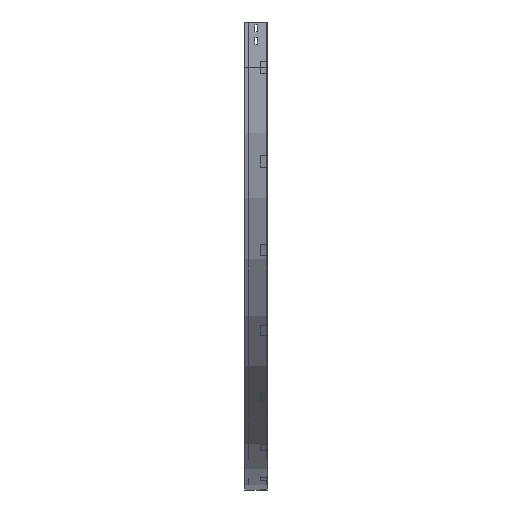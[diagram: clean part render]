
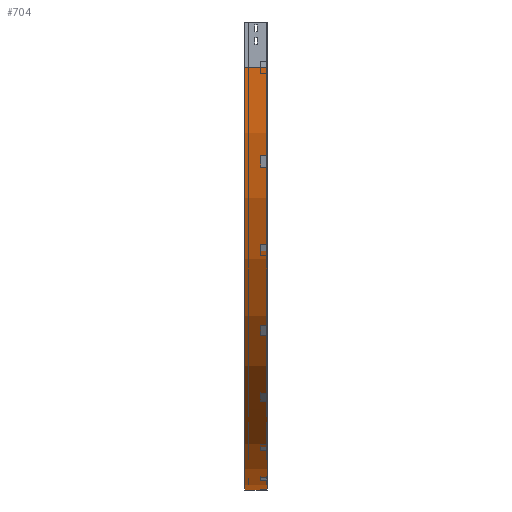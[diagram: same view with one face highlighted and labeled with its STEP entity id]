
A CAD part, left-side view. The second image highlights one B-rep face of the part: STEP entity #704.
In plain terms, the highlighted cylindrical face has radius 1400 mm (diameter 2800 mm), a partial arc.
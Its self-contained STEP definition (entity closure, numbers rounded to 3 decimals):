
#1 = CARTESIAN_POINT ( 'NONE',  ( 0., 0., -150. ) ) ;
#49 = DIRECTION ( 'NONE',  ( -1., 0., 0. ) ) ;
#73 = CARTESIAN_POINT ( 'NONE',  ( 1400., 0., -1550. ) ) ;
#145 = CARTESIAN_POINT ( 'NONE',  ( 1400., 0., -150. ) ) ;
#199 = VERTEX_POINT ( 'NONE', #970 ) ;
#342 = VERTEX_POINT ( 'NONE', #3022 ) ;
#399 = ORIENTED_EDGE ( 'NONE', *, *, #569, .F. ) ;
#476 = CIRCLE ( 'NONE', #3751, 1400. ) ;
#569 = EDGE_CURVE ( 'NONE', #342, #3200, #1171, .T. ) ;
#599 = DIRECTION ( 'NONE',  ( 0., -1., 0. ) ) ;
#704 = ADVANCED_FACE ( 'NONE', ( #2302 ), #1715, .T. ) ;
#718 = VERTEX_POINT ( 'NONE', #3472 ) ;
#762 = EDGE_CURVE ( 'NONE', #199, #3200, #2257, .T. ) ;
#970 = CARTESIAN_POINT ( 'NONE',  ( 1400., 75., -1550. ) ) ;
#1009 = ORIENTED_EDGE ( 'NONE', *, *, #1729, .F. ) ;
#1113 = AXIS2_PLACEMENT_3D ( 'NONE', #1364, #3177, #1655 ) ;
#1171 = CIRCLE ( 'NONE', #2290, 1400. ) ;
#1364 = CARTESIAN_POINT ( 'NONE',  ( 1400., 0., -150. ) ) ;
#1441 = CARTESIAN_POINT ( 'NONE',  ( 1400., 0., -1550. ) ) ;
#1501 = EDGE_LOOP ( 'NONE', ( #399, #1009, #3886, #1553 ) ) ;
#1553 = ORIENTED_EDGE ( 'NONE', *, *, #762, .T. ) ;
#1655 = DIRECTION ( 'NONE',  ( 0., 0., -1. ) ) ;
#1715 = CYLINDRICAL_SURFACE ( 'NONE', #1113, 1400. ) ;
#1729 = EDGE_CURVE ( 'NONE', #718, #342, #3605, .T. ) ;
#1928 = CARTESIAN_POINT ( 'NONE',  ( 1400., 75., -150. ) ) ;
#2203 = EDGE_CURVE ( 'NONE', #718, #199, #476, .T. ) ;
#2257 = LINE ( 'NONE', #1441, #2982 ) ;
#2290 = AXIS2_PLACEMENT_3D ( 'NONE', #145, #3374, #3406 ) ;
#2302 = FACE_OUTER_BOUND ( 'NONE', #1501, .T. ) ;
#2573 = DIRECTION ( 'NONE',  ( 0., -1., 0. ) ) ;
#2982 = VECTOR ( 'NONE', #2573, 1000. ) ;
#3015 = DIRECTION ( 'NONE',  ( 0., -1., 0. ) ) ;
#3022 = CARTESIAN_POINT ( 'NONE',  ( 0., 0., -150. ) ) ;
#3177 = DIRECTION ( 'NONE',  ( 0., -1., 0. ) ) ;
#3200 = VERTEX_POINT ( 'NONE', #73 ) ;
#3362 = VECTOR ( 'NONE', #599, 1000. ) ;
#3374 = DIRECTION ( 'NONE',  ( 0., -1., 0. ) ) ;
#3406 = DIRECTION ( 'NONE',  ( -1., 0., 0. ) ) ;
#3472 = CARTESIAN_POINT ( 'NONE',  ( 0., 75., -150. ) ) ;
#3605 = LINE ( 'NONE', #1, #3362 ) ;
#3751 = AXIS2_PLACEMENT_3D ( 'NONE', #1928, #3015, #49 ) ;
#3886 = ORIENTED_EDGE ( 'NONE', *, *, #2203, .T. ) ;
